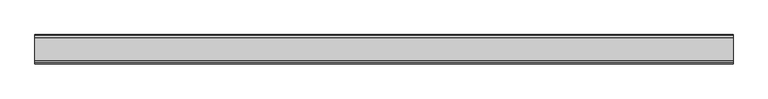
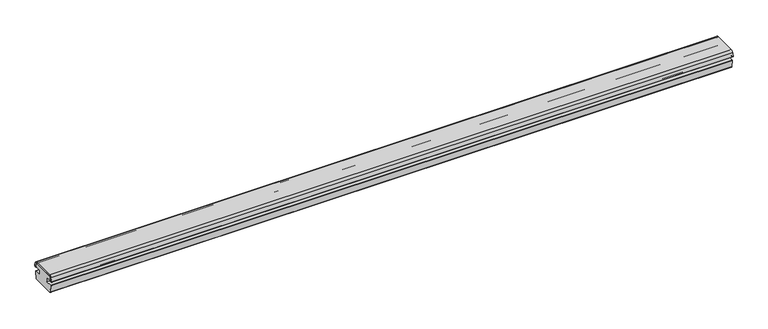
"""IFC4 building model written with IfcOpenShell, lengths in millimetres: proxy geometry, Weiku - Montante - Divisor fixo 02.2.01.041 : Weiku - Montante - Divisor fixo 02.2.01.041."""

from ifc_helpers import new_model, si_unit, point, frame, frame_2d, origin, place, context, project, spatial, polyline, circle_curve, trimmed, segment, composite_curve, outline, extrude, source, transform, mapped, element, save


def generic_models_f1a3249d(model_context):
    return source(origin(), model_context, "Body", "SweptSolid", [
        extrude(outline(composite_curve([segment(trimmed(circle_curve(frame_2d((-33.0007245, 47.0)), 3.0), [point((-33.0007245, 50.0))], [point((-35.898502, 47.7764571))], True, "CARTESIAN"), True, "CONTINUOUS"), segment(polyline([(-35.898502, 47.7764571), (-38.4496907, 38.2552914)]), True, "CONTINUOUS"), segment(trimmed(circle_curve(frame_2d((-37.8701352, 38.1)), 0.6), [point((-38.4496907, 38.2552914))], [point((-37.8701352, 37.5))], True, "CARTESIAN"), True, "CONTINUOUS"), segment(polyline([(-37.8701352, 37.5), (-35.6935072, 37.5), (-35.6935072, 35.5), (-39.6935072, 35.5)]), True, "CONTINUOUS"), segment(trimmed(circle_curve(frame_2d((-39.6935072, 38.5)), 3.0), [point((-39.6935072, 35.5))], [point((-42.6544744, 38.0176381))], False, "CARTESIAN"), True, "CONTINUOUS"), segment(polyline([(-42.6544744, 38.0176381), (-39.7622053, 48.8117333)]), True, "CONTINUOUS"), segment(trimmed(circle_curve(frame_2d((-33.0007245, 47.0)), 7.0), [point((-39.7622053, 48.8117333))], [point((-33.0007245, 54.0))], False, "CARTESIAN"), True, "CONTINUOUS"), segment(polyline([(-33.0007245, 54.0), (33.0007245, 54.0)]), True, "CONTINUOUS"), segment(trimmed(circle_curve(frame_2d((33.0007245, 47.0)), 7.0), [point((33.0007245, 54.0))], [point((39.7622053, 48.8117333))], False, "CARTESIAN"), True, "CONTINUOUS"), segment(polyline([(39.7622053, 48.8117333), (42.3171749, 39.2764571)]), True, "CONTINUOUS"), segment(trimmed(circle_curve(frame_2d((39.4193974, 38.5)), 3.0), [point((42.3171749, 39.2764571))], [point((39.4193974, 35.5))], False, "CARTESIAN"), True, "CONTINUOUS"), segment(polyline([(39.4193974, 35.5), (35.6935072, 35.5), (35.6935072, 37.5), (37.8701352, 37.5)]), True, "CONTINUOUS"), segment(trimmed(circle_curve(frame_2d((37.8701352, 38.1)), 0.6), [point((37.8701352, 37.5))], [point((38.4496907, 38.2552914))], True, "CARTESIAN"), True, "CONTINUOUS"), segment(polyline([(38.4496907, 38.2552914), (35.898502, 47.7764571)]), True, "CONTINUOUS"), segment(trimmed(circle_curve(frame_2d((33.0007245, 47.0)), 3.0), [point((35.898502, 47.7764571))], [point((33.0007245, 50.0))], True, "CARTESIAN"), True, "CONTINUOUS"), segment(polyline([(33.0007245, 50.0), (-33.0007245, 50.0)]), True, "CONTINUOUS")], self_intersect=False)), frame((-1006.5, 0.0, 0.0), z_axis=(1.0, 0.0, 0.0), x_axis=(0.0, 1.0, 0.0)), (0.0, 0.0, 1.0), 2013.0),
        extrude(outline(composite_curve([segment(polyline([(-33.0007245, 50.0), (33.0007245, 50.0)]), True, "CONTINUOUS"), segment(trimmed(circle_curve(frame_2d((33.0007245, 47.0)), 3.0), [point((33.0007245, 50.0))], [point((35.898502, 47.7764571))], False, "CARTESIAN"), True, "CONTINUOUS"), segment(polyline([(35.898502, 47.7764571), (38.4496907, 38.2552914)]), True, "CONTINUOUS"), segment(trimmed(circle_curve(frame_2d((37.8701352, 38.1)), 0.6), [point((38.4496907, 38.2552914))], [point((37.8701352, 37.5))], False, "CARTESIAN"), True, "CONTINUOUS"), segment(polyline([(37.8701352, 37.5), (17.5004577, 37.5), (17.5004577, 23.5), (37.5139562, 23.5)]), True, "CONTINUOUS"), segment(trimmed(circle_curve(frame_2d((37.5139562, 22.5)), 1.0), [point((37.5139562, 23.5))], [point((38.5006041, 22.3371317))], False, "CARTESIAN"), True, "CONTINUOUS"), segment(polyline([(38.5006041, 22.3371317), (34.9515483, 0.8371317)]), True, "CONTINUOUS"), segment(trimmed(circle_curve(frame_2d((33.9649005, 1.0)), 1.0), [point((34.9515483, 0.8371317))], [point((33.9649005, 0.0))], False, "CARTESIAN"), True, "CONTINUOUS"), segment(polyline([(33.9649005, 0.0), (-33.9649005, 0.0)]), True, "CONTINUOUS"), segment(trimmed(circle_curve(frame_2d((-33.9649005, 1.0)), 1.0), [point((-33.9649005, 0.0))], [point((-34.9515483, 0.8371317))], False, "CARTESIAN"), True, "CONTINUOUS"), segment(polyline([(-34.9515483, 0.8371317), (-38.5006041, 22.3371317)]), True, "CONTINUOUS"), segment(trimmed(circle_curve(frame_2d((-37.5139562, 22.5)), 1.0), [point((-38.5006041, 22.3371317))], [point((-37.5139562, 23.5))], False, "CARTESIAN"), True, "CONTINUOUS"), segment(polyline([(-37.5139562, 23.5), (-17.5004577, 23.5), (-17.5004577, 37.5), (-37.8701352, 37.5)]), True, "CONTINUOUS"), segment(trimmed(circle_curve(frame_2d((-37.8701352, 38.1)), 0.6), [point((-37.8701352, 37.5))], [point((-38.4496907, 38.2552914))], False, "CARTESIAN"), True, "CONTINUOUS"), segment(polyline([(-38.4496907, 38.2552914), (-35.898502, 47.7764571)]), True, "CONTINUOUS"), segment(trimmed(circle_curve(frame_2d((-33.0007245, 47.0)), 3.0), [point((-35.898502, 47.7764571))], [point((-33.0007245, 50.0))], False, "CARTESIAN"), True, "CONTINUOUS")], self_intersect=False)), frame((-1006.5, 0.0, 0.0), z_axis=(1.0, 0.0, 0.0), x_axis=(0.0, 1.0, 0.0)), (0.0, 0.0, 1.0), 2013.0),
    ])


if __name__ == "__main__":
    model = new_model("IFC4")
    model_context = context("Model", 3, world=origin())
    ifc_project = project(units=[si_unit("LENGTHUNIT", "METRE", prefix="MILLI")], contexts=[model_context])
    site = spatial("IfcSite", under=ifc_project)
    building = spatial("IfcBuilding", under=site)
    placement = place(None, origin())
    generic_models_shape = generic_models_f1a3249d(model_context)
    element("IfcBuildingElementProxy", 1, Name="Weiku - Montante - Divisor fixo 02.2.01.041 : Weiku - Montante - Divisor fixo 02.2.01.041", ObjectType="Weiku - Montante - Divisor fixo 02.2.01.041 : Weiku - Montante - Divisor fixo 02.2.01.041", at=placement, inside=building, context=model_context, shape_type="MappedRepresentation", body=[
        mapped(generic_models_shape, transform((0.0, 0.0, 0.0), x_axis=(1.0, 0.0, 0.0), y_axis=(0.0, 1.0, 0.0), z_axis=(0.0, 0.0, 1.0))),
    ])
    save(model, "model.ifc")
